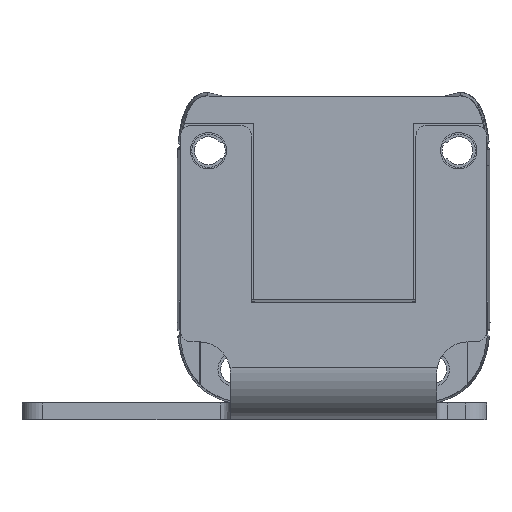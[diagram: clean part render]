
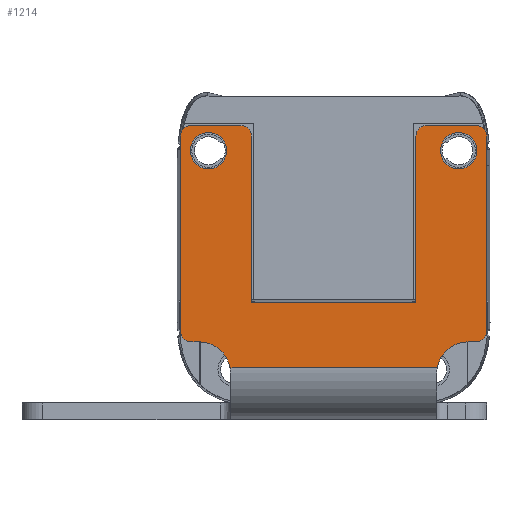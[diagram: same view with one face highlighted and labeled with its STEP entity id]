
A CAD part, front view. The second image highlights one B-rep face of the part: STEP entity #1214.
In plain terms, the highlighted planar face has unit normal (0, -1, 0).
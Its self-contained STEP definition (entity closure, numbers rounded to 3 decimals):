
#1214=ADVANCED_FACE('',(#1904,#1905,#1906),#1492,.T.);
#1492=PLANE('',#9447);
#1797=CIRCLE('',#9437,3.);
#1798=CIRCLE('',#9438,1.);
#1799=CIRCLE('',#9439,1.);
#1800=CIRCLE('',#9440,1.);
#1801=CIRCLE('',#9441,1.);
#1802=CIRCLE('',#9442,1.);
#1803=CIRCLE('',#9443,1.);
#1804=CIRCLE('',#9444,3.);
#1805=CIRCLE('',#9445,1.75);
#1806=CIRCLE('',#9446,1.75);
#1904=FACE_BOUND('',#2370,.T.);
#1905=FACE_BOUND('',#2371,.T.);
#1906=FACE_BOUND('',#2372,.T.);
#2370=EDGE_LOOP('',(#4747,#4748,#4749,#4750,#4751,#4752,#4753,#4754,#4755,
#4756,#4757,#4758,#4759,#4760,#4761,#4762,#4763,#4764));
#2371=EDGE_LOOP('',(#4765));
#2372=EDGE_LOOP('',(#4766));
#4747=ORIENTED_EDGE('',*,*,#6984,.T.);
#4748=ORIENTED_EDGE('',*,*,#6985,.F.);
#4749=ORIENTED_EDGE('',*,*,#6986,.T.);
#4750=ORIENTED_EDGE('',*,*,#6987,.T.);
#4751=ORIENTED_EDGE('',*,*,#6988,.T.);
#4752=ORIENTED_EDGE('',*,*,#6989,.T.);
#4753=ORIENTED_EDGE('',*,*,#6990,.T.);
#4754=ORIENTED_EDGE('',*,*,#6991,.F.);
#4755=ORIENTED_EDGE('',*,*,#6992,.F.);
#4756=ORIENTED_EDGE('',*,*,#6993,.T.);
#4757=ORIENTED_EDGE('',*,*,#6994,.T.);
#4758=ORIENTED_EDGE('',*,*,#6995,.F.);
#4759=ORIENTED_EDGE('',*,*,#6996,.T.);
#4760=ORIENTED_EDGE('',*,*,#6997,.F.);
#4761=ORIENTED_EDGE('',*,*,#6998,.T.);
#4762=ORIENTED_EDGE('',*,*,#6999,.T.);
#4763=ORIENTED_EDGE('',*,*,#7000,.T.);
#4764=ORIENTED_EDGE('',*,*,#7001,.T.);
#4765=ORIENTED_EDGE('',*,*,#7002,.F.);
#4766=ORIENTED_EDGE('',*,*,#7003,.T.);
#5758=VERTEX_POINT('',#15442);
#5759=VERTEX_POINT('',#15443);
#5760=VERTEX_POINT('',#15445);
#5761=VERTEX_POINT('',#15447);
#5762=VERTEX_POINT('',#15449);
#5763=VERTEX_POINT('',#15451);
#5764=VERTEX_POINT('',#15453);
#5765=VERTEX_POINT('',#15455);
#5766=VERTEX_POINT('',#15457);
#5767=VERTEX_POINT('',#15459);
#5768=VERTEX_POINT('',#15461);
#5769=VERTEX_POINT('',#15463);
#5770=VERTEX_POINT('',#15465);
#5771=VERTEX_POINT('',#15467);
#5772=VERTEX_POINT('',#15469);
#5773=VERTEX_POINT('',#15471);
#5774=VERTEX_POINT('',#15473);
#5775=VERTEX_POINT('',#15475);
#5776=VERTEX_POINT('',#15478);
#5777=VERTEX_POINT('',#15480);
#6984=EDGE_CURVE('',#5758,#5759,#1797,.T.);
#6985=EDGE_CURVE('',#5760,#5759,#7863,.T.);
#6986=EDGE_CURVE('',#5760,#5761,#1798,.T.);
#6987=EDGE_CURVE('',#5761,#5762,#7864,.T.);
#6988=EDGE_CURVE('',#5762,#5763,#1799,.T.);
#6989=EDGE_CURVE('',#5763,#5764,#7865,.T.);
#6990=EDGE_CURVE('',#5764,#5765,#1800,.T.);
#6991=EDGE_CURVE('',#5766,#5765,#7866,.T.);
#6992=EDGE_CURVE('',#5767,#5766,#7867,.T.);
#6993=EDGE_CURVE('',#5767,#5768,#7868,.T.);
#6994=EDGE_CURVE('',#5768,#5769,#1801,.T.);
#6995=EDGE_CURVE('',#5770,#5769,#7869,.T.);
#6996=EDGE_CURVE('',#5770,#5771,#1802,.T.);
#6997=EDGE_CURVE('',#5772,#5771,#7870,.T.);
#6998=EDGE_CURVE('',#5772,#5773,#1803,.T.);
#6999=EDGE_CURVE('',#5773,#5774,#7871,.T.);
#7000=EDGE_CURVE('',#5774,#5775,#1804,.T.);
#7001=EDGE_CURVE('',#5775,#5758,#7872,.T.);
#7002=EDGE_CURVE('',#5776,#5776,#1805,.T.);
#7003=EDGE_CURVE('',#5777,#5777,#1806,.T.);
#7863=LINE('',#15444,#8719);
#7864=LINE('',#15448,#8720);
#7865=LINE('',#15452,#8721);
#7866=LINE('',#15456,#8722);
#7867=LINE('',#15458,#8723);
#7868=LINE('',#15460,#8724);
#7869=LINE('',#15464,#8725);
#7870=LINE('',#15468,#8726);
#7871=LINE('',#15472,#8727);
#7872=LINE('',#15476,#8728);
#8719=VECTOR('',#11638,1.);
#8720=VECTOR('',#11641,1.);
#8721=VECTOR('',#11644,1.);
#8722=VECTOR('',#11647,1.);
#8723=VECTOR('',#11648,1.);
#8724=VECTOR('',#11649,1.);
#8725=VECTOR('',#11652,1.);
#8726=VECTOR('',#11655,1.);
#8727=VECTOR('',#11658,1.);
#8728=VECTOR('',#11661,1.);
#9437=AXIS2_PLACEMENT_3D('',#15441,#11636,#11637);
#9438=AXIS2_PLACEMENT_3D('',#15446,#11639,#11640);
#9439=AXIS2_PLACEMENT_3D('',#15450,#11642,#11643);
#9440=AXIS2_PLACEMENT_3D('',#15454,#11645,#11646);
#9441=AXIS2_PLACEMENT_3D('',#15462,#11650,#11651);
#9442=AXIS2_PLACEMENT_3D('',#15466,#11653,#11654);
#9443=AXIS2_PLACEMENT_3D('',#15470,#11656,#11657);
#9444=AXIS2_PLACEMENT_3D('',#15474,#11659,#11660);
#9445=AXIS2_PLACEMENT_3D('',#15477,#11662,#11663);
#9446=AXIS2_PLACEMENT_3D('',#15479,#11664,#11665);
#9447=AXIS2_PLACEMENT_3D('',#15481,#11666,#11667);
#11636=DIRECTION('',(0.,1.,0.));
#11637=DIRECTION('',(0.,0.,1.));
#11638=DIRECTION('',(-1.,0.,0.));
#11639=DIRECTION('',(0.,-1.,0.));
#11640=DIRECTION('',(0.,0.,1.));
#11641=DIRECTION('',(0.,0.,1.));
#11642=DIRECTION('',(0.,-1.,0.));
#11643=DIRECTION('',(0.,0.,-1.));
#11644=DIRECTION('',(-1.,0.,0.));
#11645=DIRECTION('',(0.,-1.,0.));
#11646=DIRECTION('',(0.,0.,-1.));
#11647=DIRECTION('',(0.,0.,1.));
#11648=DIRECTION('',(1.,0.,0.));
#11649=DIRECTION('',(0.,0.,1.));
#11650=DIRECTION('',(0.,-1.,0.));
#11651=DIRECTION('',(0.,0.,1.));
#11652=DIRECTION('',(1.,0.,0.));
#11653=DIRECTION('',(0.,-1.,0.));
#11654=DIRECTION('',(0.,0.,1.));
#11655=DIRECTION('',(0.,0.,1.));
#11656=DIRECTION('',(0.,-1.,0.));
#11657=DIRECTION('',(0.,0.,1.));
#11658=DIRECTION('',(1.,0.,0.));
#11659=DIRECTION('',(0.,1.,0.));
#11660=DIRECTION('',(0.,0.,1.));
#11661=DIRECTION('',(1.,0.,0.));
#11662=DIRECTION('',(0.,-1.,0.));
#11663=DIRECTION('',(0.,0.,1.));
#11664=DIRECTION('',(0.,1.,0.));
#11665=DIRECTION('',(0.,0.,-1.));
#11666=DIRECTION('',(0.,-1.,0.));
#11667=DIRECTION('',(1.,0.,0.));
#15441=CARTESIAN_POINT('',(12.89,105.8,-139.533));
#15442=CARTESIAN_POINT('',(9.939,105.8,-138.994));
#15443=CARTESIAN_POINT('',(12.89,105.8,-136.533));
#15444=CARTESIAN_POINT('',(-7.89,105.8,-136.533));
#15445=CARTESIAN_POINT('',(13.69,105.8,-136.533));
#15446=CARTESIAN_POINT('',(13.69,105.8,-135.533));
#15447=CARTESIAN_POINT('',(14.69,105.8,-135.533));
#15448=CARTESIAN_POINT('',(14.69,105.8,-115.6));
#15449=CARTESIAN_POINT('',(14.69,105.8,-116.8));
#15450=CARTESIAN_POINT('',(13.69,105.8,-116.8));
#15451=CARTESIAN_POINT('',(13.69,105.8,-115.8));
#15452=CARTESIAN_POINT('',(7.89,105.8,-115.8));
#15453=CARTESIAN_POINT('',(8.89,105.8,-115.8));
#15454=CARTESIAN_POINT('',(8.89,105.8,-116.8));
#15455=CARTESIAN_POINT('',(7.89,105.8,-116.8));
#15456=CARTESIAN_POINT('',(7.89,105.8,-115.6));
#15457=CARTESIAN_POINT('',(7.89,105.8,-132.733));
#15458=CARTESIAN_POINT('',(-9.89,105.8,-132.733));
#15459=CARTESIAN_POINT('',(-7.89,105.8,-132.733));
#15460=CARTESIAN_POINT('',(-7.89,105.8,-115.6));
#15461=CARTESIAN_POINT('',(-7.89,105.8,-116.8));
#15462=CARTESIAN_POINT('',(-8.89,105.8,-116.8));
#15463=CARTESIAN_POINT('',(-8.89,105.8,-115.8));
#15464=CARTESIAN_POINT('',(-7.89,105.8,-115.8));
#15465=CARTESIAN_POINT('',(-13.69,105.8,-115.8));
#15466=CARTESIAN_POINT('',(-13.69,105.8,-116.8));
#15467=CARTESIAN_POINT('',(-14.69,105.8,-116.8));
#15468=CARTESIAN_POINT('',(-14.69,105.8,-115.6));
#15469=CARTESIAN_POINT('',(-14.69,105.8,-135.533));
#15470=CARTESIAN_POINT('',(-13.69,105.8,-135.533));
#15471=CARTESIAN_POINT('',(-13.69,105.8,-136.533));
#15472=CARTESIAN_POINT('',(-7.89,105.8,-136.533));
#15473=CARTESIAN_POINT('',(-12.89,105.8,-136.533));
#15474=CARTESIAN_POINT('',(-12.89,105.8,-139.533));
#15475=CARTESIAN_POINT('',(-9.939,105.8,-138.994));
#15476=CARTESIAN_POINT('',(-9.89,105.8,-138.994));
#15477=CARTESIAN_POINT('',(-12.,105.8,-118.2));
#15478=CARTESIAN_POINT('',(-12.,105.8,-116.45));
#15479=CARTESIAN_POINT('',(12.,105.8,-118.2));
#15480=CARTESIAN_POINT('',(12.,105.8,-119.95));
#15481=CARTESIAN_POINT('',(-9.89,105.8,-142.394));
